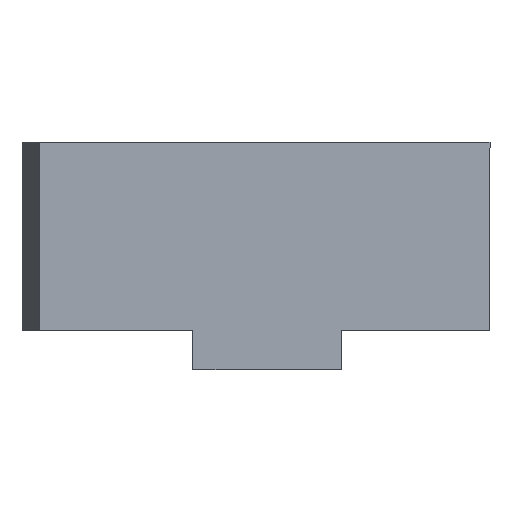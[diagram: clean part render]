
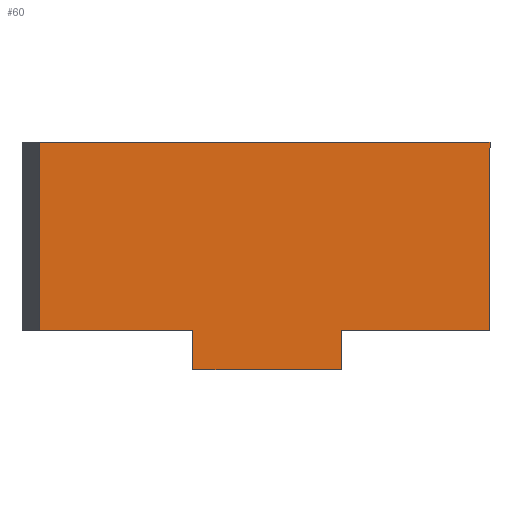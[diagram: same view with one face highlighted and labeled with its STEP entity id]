
A CAD part, front view. The second image highlights one B-rep face of the part: STEP entity #60.
In plain terms, the highlighted planar face has unit normal (0, -1, 0).
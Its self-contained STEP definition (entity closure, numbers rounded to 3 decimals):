
#60=ADVANCED_FACE('',(#81),#82,.T.);
#81=FACE_OUTER_BOUND('',#102,.T.);
#82=PLANE('',#103);
#102=EDGE_LOOP('',(#172,#173,#174,#175,#176,#177,#178,#179));
#103=AXIS2_PLACEMENT_3D('',#180,#181,#182);
#172=ORIENTED_EDGE('',*,*,#185,.T.);
#173=ORIENTED_EDGE('',*,*,#190,.F.);
#174=ORIENTED_EDGE('',*,*,#199,.F.);
#175=ORIENTED_EDGE('',*,*,#202,.T.);
#176=ORIENTED_EDGE('',*,*,#205,.T.);
#177=ORIENTED_EDGE('',*,*,#207,.F.);
#178=ORIENTED_EDGE('',*,*,#193,.T.);
#179=ORIENTED_EDGE('',*,*,#195,.T.);
#180=CARTESIAN_POINT('',(38.689,-38.,12.418));
#181=DIRECTION('',(0.0,-1.0,0.));
#182=DIRECTION('',(1.0,0.0,0.0));
#185=EDGE_CURVE('',#211,#208,#212,.T.);
#190=EDGE_CURVE('',#218,#208,#220,.T.);
#193=EDGE_CURVE('',#226,#224,#227,.T.);
#195=EDGE_CURVE('',#224,#211,#229,.T.);
#199=EDGE_CURVE('',#233,#218,#235,.T.);
#202=EDGE_CURVE('',#233,#238,#240,.T.);
#205=EDGE_CURVE('',#238,#243,#245,.T.);
#207=EDGE_CURVE('',#226,#243,#247,.T.);
#208=VERTEX_POINT('',#248);
#211=VERTEX_POINT('',#252);
#212=LINE('',#253,#254);
#218=VERTEX_POINT('',#263);
#220=LINE('',#266,#267);
#224=VERTEX_POINT('',#272);
#226=VERTEX_POINT('',#275);
#227=LINE('',#276,#277);
#229=LINE('',#280,#281);
#233=VERTEX_POINT('',#287);
#235=LINE('',#290,#291);
#238=VERTEX_POINT('',#295);
#240=LINE('',#298,#299);
#243=VERTEX_POINT('',#303);
#245=LINE('',#306,#307);
#247=LINE('',#310,#311);
#248=CARTESIAN_POINT('',(16.759,-38.,4.));
#252=CARTESIAN_POINT('',(16.759,-38.,23.));
#253=CARTESIAN_POINT('',(16.759,-38.,20.209));
#254=VECTOR('',#313,1.0);
#263=CARTESIAN_POINT('',(32.255,-38.,4.));
#266=CARTESIAN_POINT('',(32.255,-38.,4.));
#267=VECTOR('',#318,1.0);
#272=CARTESIAN_POINT('',(62.255,-38.,23.0));
#275=CARTESIAN_POINT('',(62.255,-38.,4.));
#276=CARTESIAN_POINT('',(62.255,-38.,4.));
#277=VECTOR('',#321,1.0);
#280=CARTESIAN_POINT('',(62.255,-38.,23.0));
#281=VECTOR('',#323,1.0);
#287=CARTESIAN_POINT('',(32.255,-38.,0.));
#290=CARTESIAN_POINT('',(32.255,-38.,0.));
#291=VECTOR('',#327,1.0);
#295=CARTESIAN_POINT('',(47.255,-38.,0.));
#298=CARTESIAN_POINT('',(32.255,-38.,0.));
#299=VECTOR('',#330,1.0);
#303=CARTESIAN_POINT('',(47.255,-38.,4.));
#306=CARTESIAN_POINT('',(47.255,-38.,0.));
#307=VECTOR('',#333,1.0);
#310=CARTESIAN_POINT('',(62.255,-38.,4.));
#311=VECTOR('',#335,1.0);
#313=DIRECTION('',(0.,0.,-1.0));
#318=DIRECTION('',(-1.0,0.,0.));
#321=DIRECTION('',(0.,0.,1.0));
#323=DIRECTION('',(-1.0,0.,0.));
#327=DIRECTION('',(0.0,0.,1.0));
#330=DIRECTION('',(1.0,0.0,0.0));
#333=DIRECTION('',(0.,0.,1.0));
#335=DIRECTION('',(-1.0,0.,0.));
